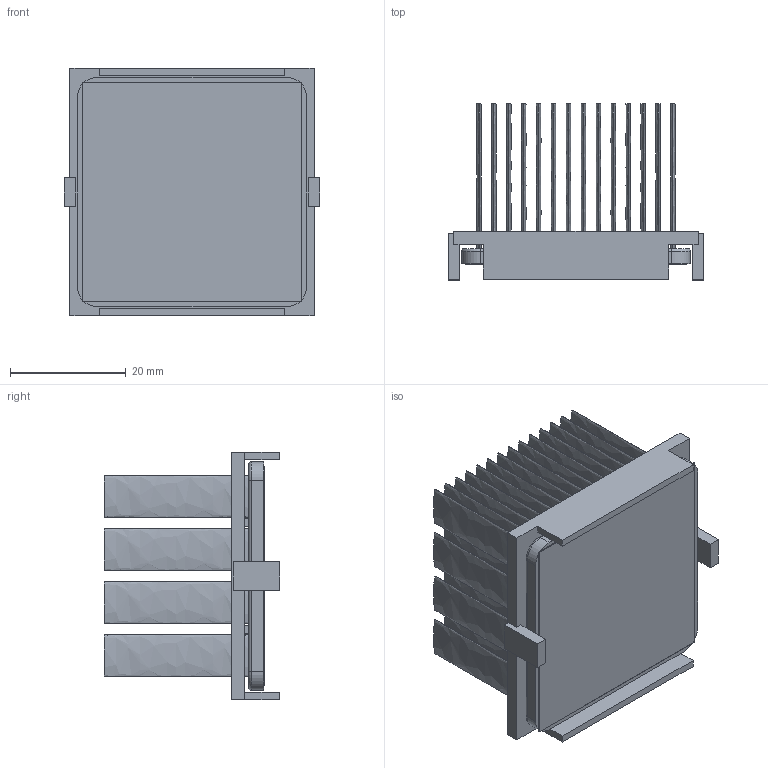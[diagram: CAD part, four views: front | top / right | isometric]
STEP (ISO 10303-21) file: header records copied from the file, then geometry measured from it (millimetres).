
FILE_DESCRIPTION (( 'STEP AP214' ), '1' );
FILE_NAME ('INM40001-28W-2.6K30.STEP', '2023-02-21T17:44:37', ( '' ), ( '' ), 'SwSTEP 2.0', 'SolidWorks 2020', '' );
FILE_SCHEMA (( 'AUTOMOTIVE_DESIGN' ));
Length unit declared in the file: inch
Products named in the file (1): INM40001-28W-2.6K30
Bounding box: 44.2 x 30.4 x 42.7 mm (x, y, z)
Volume: 12620 mm3; surface area: 29973.4 mm2
Topology: 3 solids, 3 shells, 246 faces, 544 edges, 360 vertices
Faces by surface type: plane 122, bspline 112, cylinder 8, torus 4
Entity records: 10244 total; most frequent: CARTESIAN_POINT 2607, ORIENTED_EDGE 1088, DIRECTION 610, EDGE_CURVE 544, VERTEX_POINT 360, EDGE_LOOP 304, LINE 300, VECTOR 300
